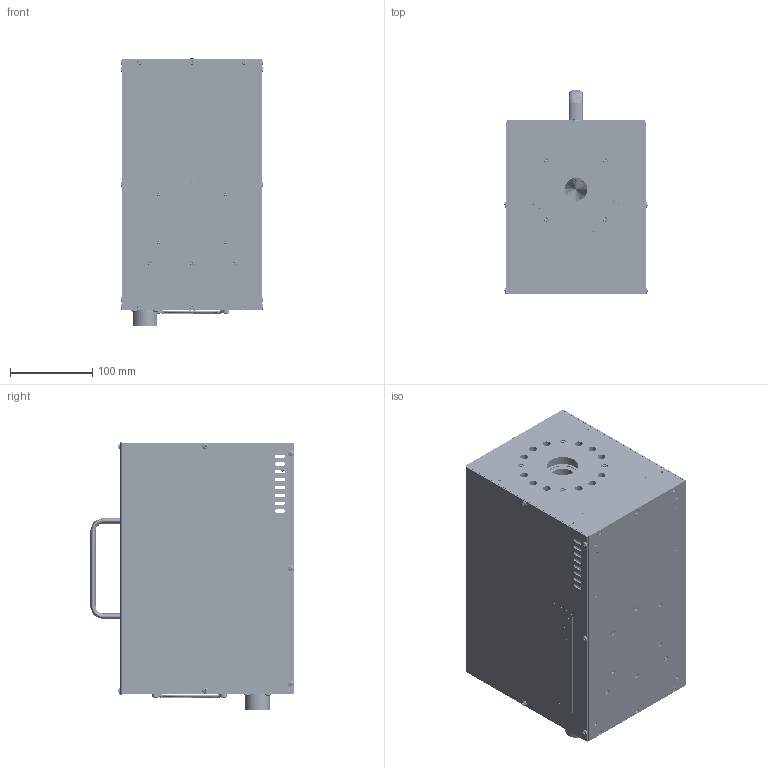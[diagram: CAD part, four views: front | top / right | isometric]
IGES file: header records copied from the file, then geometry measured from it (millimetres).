
Start section: SolidWorks IGES file using analytic representation for surfaces
Global section: file name: X:\ECO_SUB\052324\319-001-330\319-001-330_NC.IGS; native system: SolidWorks 2013; preprocessor: SolidWorks 2013; author: doug; date: 140925.110723; units: inch
Bounding box: 173.66 x 247.97 x 325.4 mm (x, y, z)
Surface area: 833515.2 mm2 (no closed solid volume)
Topology: 0 solids, 0 shells, 3872 faces, 46661 edges, 46585 vertices
Faces by surface type: bspline 2971, revolution 901
